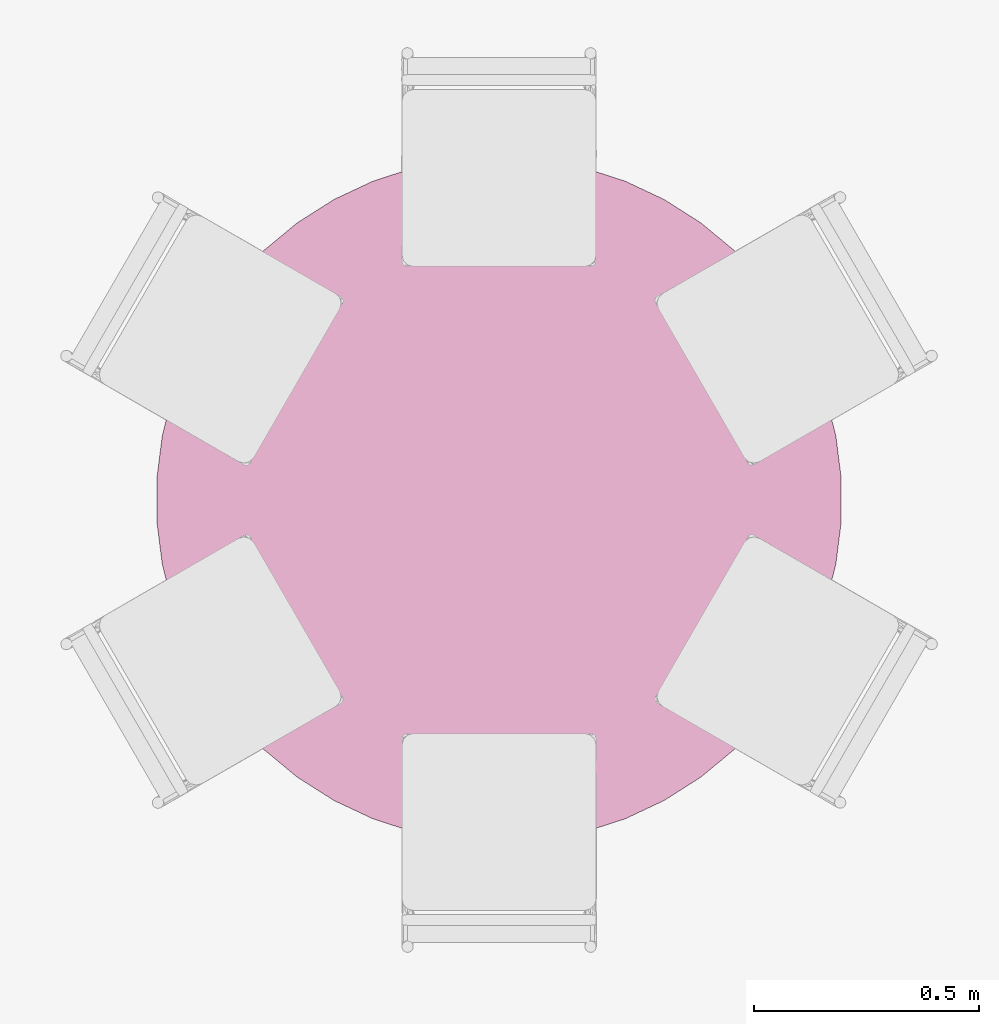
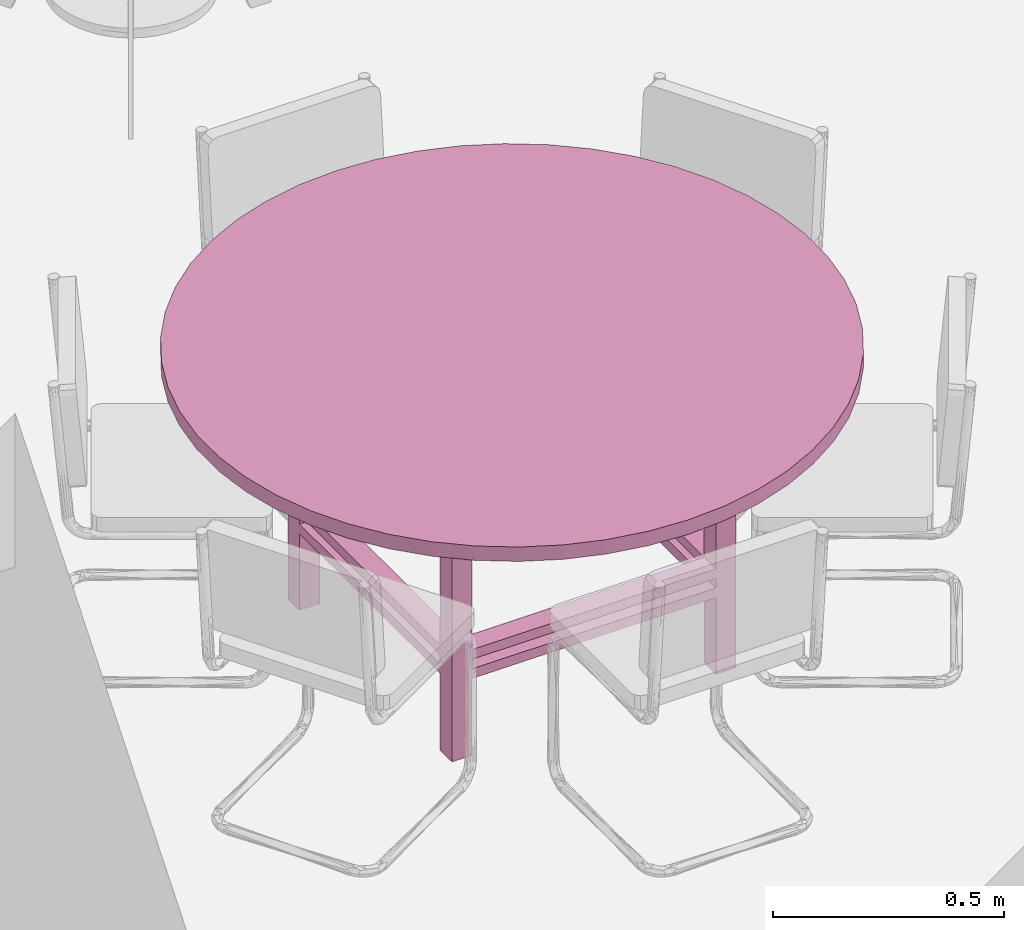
# One storey, part 13 of 19: 1 furnishing.
"""IFC2X3 building model written with IfcOpenShell, lengths in millimetres."""

from ifc_helpers import new_model, entity, si_unit, converted_unit, derived_unit, direction, frame, origin, place, context, subcontext, project, spatial, faceted_brep, source, transform, mapped, material, material_list, type_object, type_shapes, element, save


model = new_model("IFC2X3")

# Units and contexts
model_context = context("Model", 3, precision=0.01, world=origin(), true_north=direction((6.12303176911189e-17, 1.0)))
context_of_model = context(None, 3, precision=0.01, world=origin(), true_north=direction((6.12303176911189e-17, 1.0)))
body_context = subcontext(model_context, "Body", "Model", "MODEL_VIEW")
ifc_project = project(units=[si_unit("LENGTHUNIT", "METRE", prefix="MILLI"), si_unit("AREAUNIT", "SQUARE_METRE"), si_unit("VOLUMEUNIT", "CUBIC_METRE"), converted_unit("PLANEANGLEUNIT", "DEGREE", entity("IfcRatioMeasure", 0.0174532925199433), si_unit("PLANEANGLEUNIT", "RADIAN"), dimensions=[0, 0, 0, 0, 0, 0, 0]), si_unit("MASSUNIT", "GRAM", prefix="KILO"), derived_unit("MASSDENSITYUNIT", [(si_unit("MASSUNIT", "GRAM", prefix="KILO"), 1), (si_unit("LENGTHUNIT", "METRE"), -3)]), si_unit("TIMEUNIT", "SECOND"), si_unit("FREQUENCYUNIT", "HERTZ"), si_unit("THERMODYNAMICTEMPERATUREUNIT", "DEGREE_CELSIUS"), derived_unit("THERMALTRANSMITTANCEUNIT", [(si_unit("MASSUNIT", "GRAM", prefix="KILO"), 1), (si_unit("THERMODYNAMICTEMPERATUREUNIT", "KELVIN"), -1), (si_unit("TIMEUNIT", "SECOND"), -3)]), derived_unit("VOLUMETRICFLOWRATEUNIT", [(si_unit("LENGTHUNIT", "METRE"), 3), (si_unit("TIMEUNIT", "SECOND"), -1)]), si_unit("ELECTRICCURRENTUNIT", "AMPERE"), si_unit("ELECTRICVOLTAGEUNIT", "VOLT"), si_unit("POWERUNIT", "WATT"), si_unit("FORCEUNIT", "NEWTON", prefix="KILO"), si_unit("ILLUMINANCEUNIT", "LUX"), si_unit("LUMINOUSFLUXUNIT", "LUMEN"), si_unit("LUMINOUSINTENSITYUNIT", "CANDELA"), derived_unit("USERDEFINED", [(si_unit("MASSUNIT", "GRAM", prefix="KILO"), -1), (si_unit("LENGTHUNIT", "METRE"), -2), (si_unit("TIMEUNIT", "SECOND"), 3), (si_unit("LUMINOUSFLUXUNIT", "LUMEN"), 1)]), derived_unit("LINEARVELOCITYUNIT", [(si_unit("LENGTHUNIT", "METRE"), 1), (si_unit("TIMEUNIT", "SECOND"), -1)]), si_unit("PRESSUREUNIT", "PASCAL"), derived_unit("USERDEFINED", [(si_unit("LENGTHUNIT", "METRE"), -2), (si_unit("MASSUNIT", "GRAM", prefix="KILO"), 1), (si_unit("TIMEUNIT", "SECOND"), -2)])], contexts=[model_context, context_of_model])

# Site, building, storey, space
site_placement = place(None, frame((121442.264707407, 135347.995453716, -1800.0)))
site = spatial("IfcSite", under=ifc_project, at=site_placement, Name="Surface", CompositionType="ELEMENT")
building_placement = place(site_placement, origin())
building = spatial("IfcBuilding", under=site, at=building_placement, CompositionType="ELEMENT")
storey_placement = place(building_placement, frame((0.0, 0.0, 5125.0)))
storey = spatial("IfcBuildingStorey", under=building, at=storey_placement, Name="2 korrus", CompositionType="ELEMENT", Elevation=5125.00000000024)
space_placement = place(storey_placement, origin())
space = spatial("IfcSpace", under=storey, at=space_placement, Name="225", CompositionType="ELEMENT", InteriorOrExteriorSpace="INTERNAL")

# Furnishing
ifc_material_1 = material(Name="Pine")
ifc_material_2 = material(Name="Laminate, Linen, Matte")
ifc_material_list_1 = material_list([ifc_material_1, ifc_material_2])
ifc_material_list_2 = material_list([ifc_material_1, ifc_material_2])
furniture_type = type_object("IfcFurnitureType", Name="1525mm Diameter", AssemblyPlace="NOTDEFINED", material=ifc_material_list_2)
shared_shape = source(origin(), body_context, "Body", "Brep", [
    faceted_brep([(408.731967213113, 170.971311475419, 647.7), (408.731967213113, 120.171311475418, 647.7), (459.531967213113, 120.171311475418, 647.7), (459.531967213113, 170.971311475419, 647.7), (-201.368032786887, 170.971311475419, 0.0), (-201.368032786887, 120.171311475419, 0.0), (-252.168032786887, 120.171311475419, 0.0), (-252.168032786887, 170.971311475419, 0.0), (-252.168032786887, 170.971311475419, 647.7), (-201.368032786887, 170.971311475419, 647.7), (-201.368032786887, 170.971311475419, 279.4), (408.731967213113, 170.971311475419, 279.4), (459.531967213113, 170.971311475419, 0.0), (408.731967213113, 170.971311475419, 0.0), (408.731967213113, 170.971311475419, 203.2), (-201.368032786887, 170.971311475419, 203.2), (408.731967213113, 170.971311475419, 228.6), (408.731967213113, 170.971311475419, 254.0), (-201.368032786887, 170.971311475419, 254.0), (-201.368032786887, 170.971311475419, 228.6), (-252.168032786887, 120.171311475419, 647.7), (-252.168032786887, 120.171311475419, 203.2), (-252.168032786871, -489.928688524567, 203.2), (-252.168032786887, -489.928688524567, 0.0), (-252.168032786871, -540.728688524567, 0.0), (-252.168032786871, -540.728688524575, 647.7), (-252.168032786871, -489.928688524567, 647.7), (-252.168032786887, -489.928688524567, 279.4), (-252.168032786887, 120.171311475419, 279.4), (-252.168032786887, 120.171311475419, 228.6), (-252.168032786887, 120.171311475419, 254.0), (-252.168032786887, -489.928688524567, 254.0), (-252.168032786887, -489.928688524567, 228.6), (-201.368032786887, 120.171311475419, 647.7), (-201.368032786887, 120.171311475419, 279.4), (408.731967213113, 120.171311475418, 279.4), (459.531967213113, 120.171311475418, 279.4), (459.53196721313, -489.928688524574, 279.4), (459.53196721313, -489.928688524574, 647.7), (459.53196721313, -540.728688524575, 647.7), (459.531967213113, -540.728688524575, 0.0), (459.53196721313, -489.928688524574, 0.0), (459.53196721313, -489.928688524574, 203.2), (459.531967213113, 120.171311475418, 203.2), (459.531967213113, 120.171311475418, 0.0), (459.53196721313, -489.928688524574, 228.6), (459.53196721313, -489.928688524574, 254.0), (459.531967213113, 120.171311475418, 254.0), (459.531967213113, 120.171311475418, 228.6), (408.73196721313, -540.728688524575, 647.7), (408.73196721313, -540.728688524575, 279.4), (-201.368032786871, -540.728688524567, 279.4), (-201.368032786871, -540.728688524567, 647.7), (-201.368032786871, -540.728688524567, 0.0), (-201.368032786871, -540.728688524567, 203.2), (408.73196721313, -540.728688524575, 203.2), (408.73196721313, -540.728688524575, 0.0), (-201.368032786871, -540.728688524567, 228.6), (-201.368032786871, -540.728688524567, 254.0), (408.73196721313, -540.728688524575, 254.0), (408.73196721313, -540.728688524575, 228.6), (408.73196721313, -489.928688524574, 647.7), (408.73196721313, -489.928688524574, 279.4), (-201.368032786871, -489.928688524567, 647.7), (-201.368032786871, -489.928688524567, 279.4), (408.731967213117, 120.17131147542, 228.6), (408.731967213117, -489.928688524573, 228.6), (-201.368032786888, 120.17131147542, 203.2), (-201.368032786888, -489.928688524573, 203.2), (408.731967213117, 120.17131147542, 203.2), (408.731967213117, -489.928688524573, 203.2), (-201.368032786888, -489.928688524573, 228.6), (-201.368032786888, 120.171311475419, 228.6), (-201.368032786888, 120.17131147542, 254.0), (-201.368032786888, -489.928688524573, 254.0), (408.731967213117, 120.17131147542, 254.0), (408.731967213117, -489.928688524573, 254.0), (-201.368032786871, -489.928688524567, 0.0), (408.73196721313, -489.928688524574, 0.0), (408.731967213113, 120.171311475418, 0.0)], [[[0, 1, 2, 3]], [[4, 5, 6, 7]], [[8, 9, 10, 11, 0, 3, 12, 13, 14, 15, 4, 7], [16, 17, 18, 19]], [[20, 8, 7, 6, 21, 22, 23, 24, 25, 26, 27, 28], [29, 30, 31, 32]], [[33, 20, 28, 34]], [[9, 33, 34, 10]], [[1, 0, 11, 35]], [[2, 1, 35, 36]], [[12, 3, 2, 36, 37, 38, 39, 40, 41, 42, 43, 44], [45, 46, 47, 48]], [[40, 39, 49, 50, 51, 52, 25, 24, 53, 54, 55, 56], [57, 58, 59, 60]], [[61, 38, 37, 62]], [[49, 61, 62, 50]], [[63, 52, 51, 64]], [[26, 63, 64, 27]], [[65, 66, 45, 48]], [[67, 68, 22, 21]], [[66, 65, 69, 70]], [[71, 66, 70, 68]], [[72, 71, 68, 67]], [[65, 72, 67, 69]], [[35, 62, 37, 36]], [[73, 74, 31, 30]], [[62, 35, 75, 76]], [[64, 62, 76, 74]], [[34, 64, 74, 73]], [[35, 34, 73, 75]], [[74, 76, 59, 58]], [[75, 73, 18, 17]], [[76, 75, 47, 46]], [[62, 64, 51, 50]], [[64, 34, 28, 27]], [[34, 35, 11, 10]], [[68, 70, 55, 54]], [[69, 67, 15, 14]], [[70, 69, 43, 42]], [[66, 71, 57, 60]], [[71, 72, 29, 32]], [[72, 65, 16, 19]], [[71, 32, 31, 74]], [[77, 23, 22, 68]], [[57, 71, 74, 58]], [[53, 77, 68, 54]], [[66, 60, 59, 76]], [[78, 56, 55, 70]], [[45, 66, 76, 46]], [[41, 78, 70, 42]], [[65, 48, 47, 75]], [[79, 44, 43, 69]], [[16, 65, 75, 17]], [[13, 79, 69, 14]], [[72, 19, 18, 73]], [[5, 4, 15, 67]], [[29, 72, 73, 30]], [[6, 5, 67, 21]], [[53, 24, 23, 77]], [[13, 12, 44, 79]], [[56, 78, 41, 40]], [[49, 39, 38, 61]], [[52, 63, 26, 25]], [[9, 8, 20, 33]]]),
    faceted_brep([(484.93196721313, 196.371311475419, 723.9), (-277.568032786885, 196.371311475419, 723.9), (-277.568032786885, -566.128688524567, 723.9), (484.93196721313, -566.128688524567, 723.9), (459.53196721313, 170.971311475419, 723.9), (459.53196721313, -540.728688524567, 723.9), (-252.168032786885, -540.728688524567, 723.9), (-252.168032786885, 170.971311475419, 723.9), (484.93196721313, 196.371311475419, 647.7), (484.93196721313, -566.128688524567, 647.7), (-277.568032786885, -566.128688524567, 647.7), (-277.568032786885, 196.371311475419, 647.7), (459.53196721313, 170.971311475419, 647.7), (-252.168032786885, 170.971311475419, 647.7), (-252.168032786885, -540.728688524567, 647.7), (459.53196721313, -540.728688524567, 647.7)], [[[0, 1, 2, 3], [4, 5, 6, 7]], [[8, 9, 10, 11], [12, 13, 14, 15]], [[1, 0, 8, 11]], [[2, 1, 11, 10]], [[3, 2, 10, 9]], [[0, 3, 9, 8]], [[5, 4, 12, 15]], [[6, 5, 15, 14]], [[7, 6, 14, 13]], [[4, 7, 13, 12]]]),
    faceted_brep([(-586.248660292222, -509.535398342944, 723.900000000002), (-621.498626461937, -420.504146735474, 723.900000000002), (-645.312061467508, -327.756940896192, 723.900000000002), (-657.31341321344, -232.756459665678, 723.900000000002), (-657.31341321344, -137.000917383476, 723.900000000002), (-645.312061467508, -42.0004361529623, 723.900000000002), (-621.498626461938, 50.74676968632, 723.900000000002), (-586.248660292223, 139.77802129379, 723.900000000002), (-540.11807598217, 223.689242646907, 723.900000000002), (-483.834380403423, 301.157103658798, 723.900000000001), (-418.285201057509, 370.959889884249, 723.900000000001), (-344.504287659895, 431.99676968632, 723.900000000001), (-263.655209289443, 483.305155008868, 723.900000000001), (-177.013004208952, 524.075881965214, 723.9), (-85.944071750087, 553.665971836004, 723.9), (8.1153766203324, 571.608771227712, 723.9), (103.681967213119, 577.621311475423, 723.899999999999), (199.2485578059, 571.608771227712, 723.899999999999), (293.30800617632, 553.665971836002, 723.899999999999), (384.376938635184, 524.075881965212, 723.899999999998), (471.019143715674, 483.305155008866, 723.899999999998), (551.868222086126, 431.996769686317, 723.899999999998), (625.64913548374, 370.959889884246, 723.899999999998), (691.198314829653, 301.157103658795, 723.899999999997), (747.4820104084, 223.689242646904, 723.899999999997), (793.612594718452, 139.778021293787, 723.899999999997), (828.862560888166, 50.7467696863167, 723.899999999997), (852.675995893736, -42.0004361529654, 723.899999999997), (864.677347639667, -137.000917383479, 723.899999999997), (864.677347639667, -232.756459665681, 723.899999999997), (852.675995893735, -327.756940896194, 723.899999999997), (828.862560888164, -420.504146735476, 723.899999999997), (793.612594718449, -509.535398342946, 723.899999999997), (747.482010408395, -593.446619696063, 723.899999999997), (691.198314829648, -670.914480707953, 723.899999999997), (625.649135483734, -740.717266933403, 723.899999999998), (551.86822208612, -801.754146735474, 723.899999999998), (471.019143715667, -853.062532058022, 723.899999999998), (384.376938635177, -893.833259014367, 723.899999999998), (293.308006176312, -923.423348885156, 723.899999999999), (199.248557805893, -941.366148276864, 723.899999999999), (103.681967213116, -947.378688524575, 723.899999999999), (8.11537662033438, -941.366148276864, 723.9), (-85.9440717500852, -923.423348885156, 723.9), (-177.01300420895, -893.833259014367, 723.9), (-263.655209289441, -853.062532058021, 723.900000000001), (-344.504287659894, -801.754146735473, 723.900000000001), (-418.285201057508, -740.717266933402, 723.900000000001), (-483.834380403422, -670.914480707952, 723.900000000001), (-540.118075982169, -593.446619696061, 723.900000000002), (828.862560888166, 50.7467696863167, 762.0), (793.612594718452, 139.778021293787, 762.0), (747.4820104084, 223.689242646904, 762.0), (691.198314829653, 301.157103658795, 762.0), (625.64913548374, 370.959889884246, 762.0), (551.868222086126, 431.996769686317, 762.0), (471.019143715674, 483.305155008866, 762.0), (384.376938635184, 524.075881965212, 762.0), (293.30800617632, 553.665971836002, 762.0), (199.2485578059, 571.608771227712, 762.0), (103.681967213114, 577.621311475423, 762.0), (8.11537662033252, 571.608771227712, 762.0), (-85.9440717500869, 553.665971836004, 762.0), (-177.013004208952, 524.075881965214, 762.0), (-263.655209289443, 483.305155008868, 762.0), (-344.504287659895, 431.99676968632, 762.0), (-418.285201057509, 370.959889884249, 762.0), (-483.834380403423, 301.157103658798, 762.0), (-540.11807598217, 223.689242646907, 762.0), (-586.248660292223, 139.77802129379, 762.0), (-621.498626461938, 50.74676968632, 762.0), (-645.312061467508, -42.0004361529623, 762.0), (-657.31341321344, -137.000917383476, 762.0), (-657.31341321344, -232.756459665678, 762.0), (-645.312061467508, -327.756940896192, 762.0), (-621.498626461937, -420.504146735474, 762.0), (-586.248660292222, -509.535398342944, 762.0), (-540.118075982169, -593.446619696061, 762.0), (-483.834380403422, -670.914480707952, 762.0), (-418.285201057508, -740.717266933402, 762.0), (-344.504287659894, -801.754146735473, 762.0), (-263.655209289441, -853.062532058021, 762.0), (-177.01300420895, -893.833259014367, 762.0), (-85.9440717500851, -923.423348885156, 762.0), (8.1153766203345, -941.366148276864, 762.0), (103.681967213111, -947.378688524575, 762.0), (199.248557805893, -941.366148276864, 762.0), (293.308006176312, -923.423348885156, 762.0), (384.376938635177, -893.833259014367, 762.0), (471.019143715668, -853.062532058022, 762.0), (551.86822208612, -801.754146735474, 762.0), (625.649135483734, -740.717266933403, 762.0), (691.198314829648, -670.914480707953, 762.0), (747.482010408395, -593.446619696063, 762.0), (793.612594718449, -509.535398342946, 762.0), (828.862560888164, -420.504146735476, 762.0), (852.675995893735, -327.756940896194, 762.0), (864.677347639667, -232.756459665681, 762.0), (864.677347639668, -137.000917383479, 762.0), (852.675995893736, -42.0004361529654, 762.0)], [[[0, 1, 2, 3, 4, 5, 6, 7, 8, 9, 10, 11, 12, 13, 14, 15, 16, 17, 18, 19, 20, 21, 22, 23, 24, 25, 26, 27, 28, 29, 30, 31, 32, 33, 34, 35, 36, 37, 38, 39, 40, 41, 42, 43, 44, 45, 46, 47, 48, 49]], [[50, 51, 52, 53, 54, 55, 56, 57, 58, 59, 60, 61, 62, 63, 64, 65, 66, 67, 68, 69, 70, 71, 72, 73, 74, 75, 76, 77, 78, 79, 80, 81, 82, 83, 84, 85, 86, 87, 88, 89, 90, 91, 92, 93, 94, 95, 96, 97, 98, 99]], [[85, 84, 42, 41]], [[84, 83, 43, 42]], [[81, 45, 44, 82]], [[44, 43, 83, 82]], [[80, 46, 45, 81]], [[75, 1, 0, 76]], [[74, 2, 1, 75]], [[48, 47, 79, 78]], [[0, 49, 77, 76]], [[80, 79, 47, 46]], [[74, 73, 3, 2]], [[48, 78, 77, 49]], [[73, 72, 4, 3]], [[69, 7, 6, 70]], [[68, 8, 7, 69]], [[4, 72, 71, 5]], [[70, 6, 5, 71]], [[8, 68, 67, 9]], [[13, 63, 62, 14]], [[14, 62, 61, 15]], [[10, 66, 65, 11]], [[65, 64, 12, 11]], [[12, 64, 63, 13]], [[9, 67, 66, 10]], [[15, 61, 60, 16]], [[57, 19, 18, 58]], [[56, 20, 19, 57]], [[16, 60, 59, 17]], [[58, 18, 17, 59]], [[20, 56, 55, 21]], [[25, 51, 50, 26]], [[26, 50, 99, 27]], [[22, 54, 53, 23]], [[53, 52, 24, 23]], [[24, 52, 51, 25]], [[21, 55, 54, 22]], [[27, 99, 98, 28]], [[98, 97, 29, 28]], [[94, 32, 31, 95]], [[93, 33, 32, 94]], [[29, 97, 96, 30]], [[95, 31, 30, 96]], [[33, 93, 92, 34]], [[38, 88, 87, 39]], [[39, 87, 86, 40]], [[35, 91, 90, 36]], [[90, 89, 37, 36]], [[37, 89, 88, 38]], [[34, 92, 91, 35]], [[40, 86, 85, 41]]]),
])
type_shapes(furniture_type, [shared_shape])
furnishing_placement = place(space_placement, frame((-117589.45857773, -118814.458507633, 0.0)))
element("IfcFurnishingElement", 1, at=furnishing_placement, inside=space, type_object=furniture_type, material=ifc_material_list_1, Name="M_Table-Dining Round w Chairs:1525mm Diameter", ObjectType="1525mm Diameter", context=body_context, shape_type="MappedRepresentation", body=[
    mapped(shared_shape, transform((0.0, 0.0, 0.0), scale=1.0)),
])

save(model, "model.ifc")
